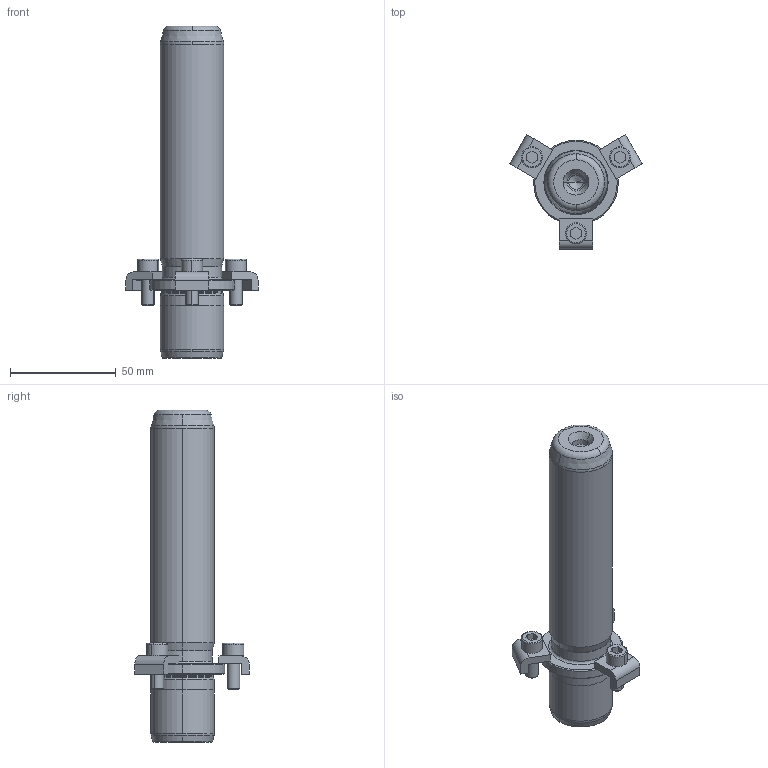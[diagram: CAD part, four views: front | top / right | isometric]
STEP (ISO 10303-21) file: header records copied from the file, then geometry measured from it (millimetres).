
FILE_DESCRIPTION((''),'2;1');
FILE_NAME('P21_030_125.stp','2008-12-23T09:55:34',(''),(''),'Mechanical Desktop 2009','Mechanical Desktop 2009',', , ');
FILE_SCHEMA(('CONFIG_CONTROL_DESIGN'));
Length unit declared in the file: millimetre
Products named in the file (2): Product; blmdl1
Assembly tree (1 placements, depth 2):
  Product
    blmdl1
Bounding box: 62.51 x 54.13 x 157 mm (x, y, z)
Volume: 114984.9 mm3; surface area: 22729.2 mm2
Topology: 7 solids, 7 shells, 163 faces, 399 edges, 257 vertices
Faces by surface type: plane 59, cylinder 44, cone 32, torus 14, bspline 14
Entity records: 5517 total; most frequent: CARTESIAN_POINT 1433, DIRECTION 908, ORIENTED_EDGE 790, EDGE_CURVE 395, AXIS2_PLACEMENT_3D 362, VERTEX_POINT 257, CIRCLE 211, VECTOR 184
